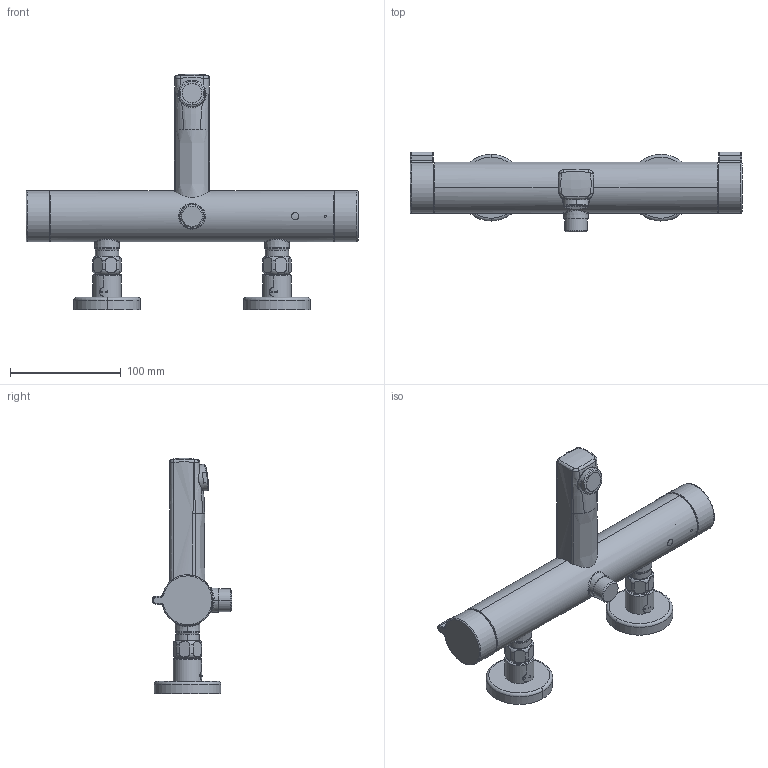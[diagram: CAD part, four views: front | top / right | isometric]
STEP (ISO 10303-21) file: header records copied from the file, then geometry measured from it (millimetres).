
FILE_DESCRIPTION((''),'2;1');
FILE_NAME('26009713_SW0001','2019-10-16T15:49:50',('SN986'),(''),'CREO PARAMETRIC BY PTC INC, 2018500','CREO PARAMETRIC BY PTC INC, 2018500','');
FILE_SCHEMA(('CONFIG_CONTROL_DESIGN'));
Length unit declared in the file: millimetre
Products named in the file (1): 26009713_SW0001
Bounding box: 299.12 x 72 x 211.95 mm (x, y, z)
Volume: 366261.1 mm3; surface area: 124645.9 mm2
Topology: 5 solids, 6 shells, 402 faces, 888 edges, 529 vertices
Faces by surface type: torus 116, cylinder 110, plane 72, bspline 60, cone 38, sphere 6
Entity records: 18141 total; most frequent: CARTESIAN_POINT 9538, DIRECTION 1836, ORIENTED_EDGE 1776, EDGE_CURVE 888, AXIS2_PLACEMENT_3D 829, VERTEX_POINT 529, CIRCLE 487, EDGE_LOOP 437
